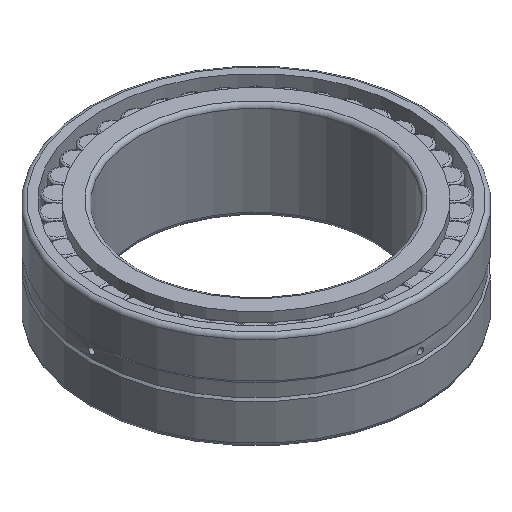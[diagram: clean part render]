
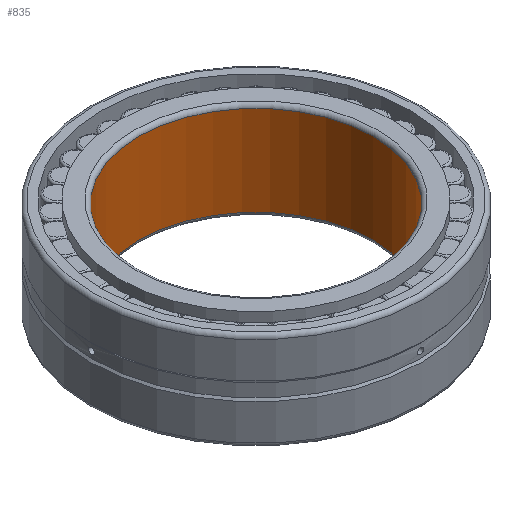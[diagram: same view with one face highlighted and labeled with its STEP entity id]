
A CAD part, isometric view. The second image highlights one B-rep face of the part: STEP entity #835.
In plain terms, the highlighted cylindrical face has radius 30 mm (diameter 60 mm), a full revolution.
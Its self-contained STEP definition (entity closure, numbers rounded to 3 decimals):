
#254=CIRCLE('',#916,30.);
#255=CIRCLE('',#918,30.);
#297=FACE_BOUND('',#414,.T.);
#344=FACE_OUTER_BOUND('',#413,.T.);
#413=EDGE_LOOP('',(#740));
#414=EDGE_LOOP('',(#741));
#540=VERTEX_POINT('',#1668);
#541=VERTEX_POINT('',#1671);
#615=EDGE_CURVE('',#540,#540,#254,.T.);
#616=EDGE_CURVE('',#541,#541,#255,.T.);
#740=ORIENTED_EDGE('',*,*,#616,.F.);
#741=ORIENTED_EDGE('',*,*,#615,.F.);
#801=CYLINDRICAL_SURFACE('',#917,30.);
#835=ADVANCED_FACE('',(#344,#297),#801,.F.);
#916=AXIS2_PLACEMENT_3D('',#1669,#1124,#1125);
#917=AXIS2_PLACEMENT_3D('',#1670,#1126,#1127);
#918=AXIS2_PLACEMENT_3D('',#1672,#1128,#1129);
#1124=DIRECTION('center_axis',(0.,0.,1.));
#1125=DIRECTION('ref_axis',(0.,-1.,0.));
#1126=DIRECTION('center_axis',(0.,0.,-1.));
#1127=DIRECTION('ref_axis',(0.,1.,0.));
#1128=DIRECTION('center_axis',(0.,0.,-1.));
#1129=DIRECTION('ref_axis',(0.,-1.,0.));
#1668=CARTESIAN_POINT('',(0.,30.,-24.255));
#1669=CARTESIAN_POINT('Origin',(0.,0.,-24.255));
#1670=CARTESIAN_POINT('Origin',(0.,0.,-12.755));
#1671=CARTESIAN_POINT('',(0.,30.,-1.255));
#1672=CARTESIAN_POINT('Origin',(0.,0.,-1.255));
